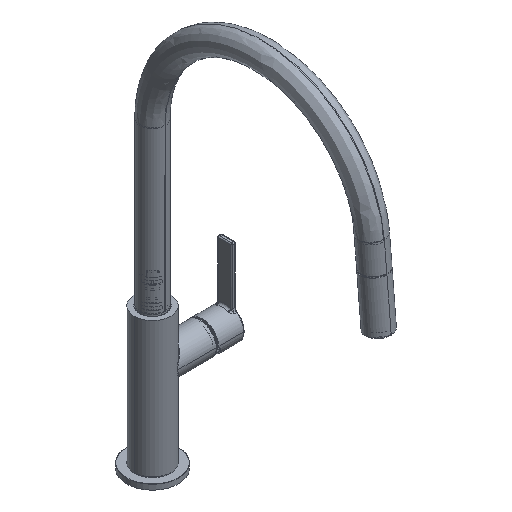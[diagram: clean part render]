
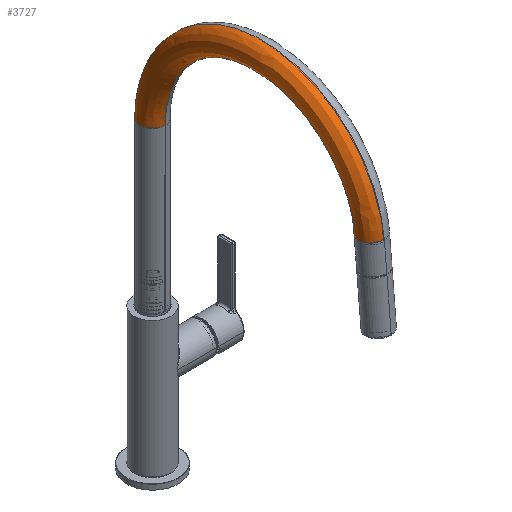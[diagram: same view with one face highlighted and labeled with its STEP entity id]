
A CAD part, isometric view. The second image highlights one B-rep face of the part: STEP entity #3727.
In plain terms, the highlighted free-form (B-spline) face has degree [2, 2] with [9, 9] control points.
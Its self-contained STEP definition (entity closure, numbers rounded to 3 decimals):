
#3727=ADVANCED_FACE('',(#6184),#46729,.T.);
#6184=FACE_OUTER_BOUND('',#8598,.T.);
#8598=EDGE_LOOP('',(#16851,#16852,#16853,#16854));
#16851=ORIENTED_EDGE('',*,*,#27127,.F.);
#16852=ORIENTED_EDGE('',*,*,#27139,.F.);
#16853=ORIENTED_EDGE('',*,*,#27142,.T.);
#16854=ORIENTED_EDGE('',*,*,#27141,.F.);
#27127=EDGE_CURVE('',#45520,#45519,#36916,.T.);
#27139=EDGE_CURVE('',#45523,#45520,#36920,.T.);
#27141=EDGE_CURVE('',#45519,#45524,#36922,.T.);
#27142=EDGE_CURVE('',#45523,#45524,#36923,.T.);
#36916=TRIMMED_CURVE($,#38269,(#91281),(#91282),.T.,.CARTESIAN.);
#36920=TRIMMED_CURVE($,#38273,(#91501),(#91502),.T.,.CARTESIAN.);
#36922=TRIMMED_CURVE($,#38275,(#91507),(#91508),.T.,.CARTESIAN.);
#36923=TRIMMED_CURVE($,#38276,(#91510),(#91511),.T.,.CARTESIAN.);
#38269=CIRCLE('',#52118,12.);
#38273=CIRCLE('',#52122,93.);
#38275=CIRCLE('',#52124,117.);
#38276=CIRCLE('',#52125,12.);
#45519=VERTEX_POINT('',#91256);
#45520=VERTEX_POINT('',#91257);
#45523=VERTEX_POINT('',#91260);
#45524=VERTEX_POINT('',#91261);
#46729=(
BOUNDED_SURFACE()
B_SPLINE_SURFACE(2,2,((#90890,#90891,#90892,#90893,#90894,#90895,#90896,
#90897,#90898),(#90899,#90900,#90901,#90902,#90903,#90904,#90905,#90906,
#90907),(#90908,#90909,#90910,#90911,#90912,#90913,#90914,#90915,#90916),
(#90917,#90918,#90919,#90920,#90921,#90922,#90923,#90924,#90925),(#90926,
#90927,#90928,#90929,#90930,#90931,#90932,#90933,#90934),(#90935,#90936,
#90937,#90938,#90939,#90940,#90941,#90942,#90943),(#90944,#90945,#90946,
#90947,#90948,#90949,#90950,#90951,#90952),(#90953,#90954,#90955,#90956,
#90957,#90958,#90959,#90960,#90961),(#90962,#90963,#90964,#90965,#90966,
#90967,#90968,#90969,#90970)),.UNSPECIFIED.,.T.,.F.,.F.)
B_SPLINE_SURFACE_WITH_KNOTS((3,2,2,2,3),(3,2,2,2,3),(0.,164.934,
329.867,494.801,659.734),(0.,18.85,
37.699,56.549,75.398),.UNSPECIFIED.)
GEOMETRIC_REPRESENTATION_ITEM()
RATIONAL_B_SPLINE_SURFACE(((1.,0.707,1.,0.707,1.,
0.707,1.,0.707,1.),(0.707,0.5,0.707,
0.5,0.707,0.5,0.707,0.5,0.707),(1.,
0.707,1.,0.707,1.,0.707,1.,0.707,
1.),(0.707,0.5,0.707,0.5,0.707,0.5,
0.707,0.5,0.707),(1.,0.707,1.,0.707,
1.,0.707,1.,0.707,1.),(0.707,0.5,0.707,
0.5,0.707,0.5,0.707,0.5,0.707),(1.,
0.707,1.,0.707,1.,0.707,1.,0.707,
1.),(0.707,0.5,0.707,0.5,0.707,0.5,
0.707,0.5,0.707),(1.,0.707,1.,0.707,
1.,0.707,1.,0.707,1.)))
REPRESENTATION_ITEM('')
SURFACE()
);
#52118=AXIS2_PLACEMENT_3D($,#91280,#56052,#56053);
#52122=AXIS2_PLACEMENT_3D($,#91500,#56060,#56061);
#52124=AXIS2_PLACEMENT_3D($,#91506,#56064,#56065);
#52125=AXIS2_PLACEMENT_3D($,#91509,#56066,#56067);
#56052=DIRECTION('',(0.,-1.,0.));
#56053=DIRECTION('',(1.,0.,0.));
#56060=DIRECTION('',(0.,0.,1.));
#56061=DIRECTION('',(0.996,0.087,0.));
#56064=DIRECTION('',(0.,0.,-1.));
#56065=DIRECTION('',(-1.,0.,0.));
#56066=DIRECTION('',(-0.087,0.996,0.));
#56067=DIRECTION('',(-0.996,-0.087,0.));
#90890=CARTESIAN_POINT('',(222.,154.,0.));
#90891=CARTESIAN_POINT('',(222.,154.,-12.));
#90892=CARTESIAN_POINT('',(210.,154.,-12.));
#90893=CARTESIAN_POINT('',(198.,154.,-12.));
#90894=CARTESIAN_POINT('',(198.,154.,0.));
#90895=CARTESIAN_POINT('',(198.,154.,12.));
#90896=CARTESIAN_POINT('',(210.,154.,12.));
#90897=CARTESIAN_POINT('',(222.,154.,12.));
#90898=CARTESIAN_POINT('',(222.,154.,0.));
#90899=CARTESIAN_POINT('',(222.,37.,0.));
#90900=CARTESIAN_POINT('',(222.,37.,-12.));
#90901=CARTESIAN_POINT('',(210.,49.,-12.));
#90902=CARTESIAN_POINT('',(198.,61.,-12.));
#90903=CARTESIAN_POINT('',(198.,61.,0.));
#90904=CARTESIAN_POINT('',(198.,61.,12.));
#90905=CARTESIAN_POINT('',(210.,49.,12.));
#90906=CARTESIAN_POINT('',(222.,37.,12.));
#90907=CARTESIAN_POINT('',(222.,37.,0.));
#90908=CARTESIAN_POINT('',(105.,37.,0.));
#90909=CARTESIAN_POINT('',(105.,37.,-12.));
#90910=CARTESIAN_POINT('',(105.,49.,-12.));
#90911=CARTESIAN_POINT('',(105.,61.,-12.));
#90912=CARTESIAN_POINT('',(105.,61.,0.));
#90913=CARTESIAN_POINT('',(105.,61.,12.));
#90914=CARTESIAN_POINT('',(105.,49.,12.));
#90915=CARTESIAN_POINT('',(105.,37.,12.));
#90916=CARTESIAN_POINT('',(105.,37.,0.));
#90917=CARTESIAN_POINT('',(-12.,37.,0.));
#90918=CARTESIAN_POINT('',(-12.,37.,-12.));
#90919=CARTESIAN_POINT('',(0.,49.,-12.));
#90920=CARTESIAN_POINT('',(12.,61.,-12.));
#90921=CARTESIAN_POINT('',(12.,61.,0.));
#90922=CARTESIAN_POINT('',(12.,61.,12.));
#90923=CARTESIAN_POINT('',(0.,49.,12.));
#90924=CARTESIAN_POINT('',(-12.,37.,12.));
#90925=CARTESIAN_POINT('',(-12.,37.,0.));
#90926=CARTESIAN_POINT('',(-12.,154.,0.));
#90927=CARTESIAN_POINT('',(-12.,154.,-12.));
#90928=CARTESIAN_POINT('',(0.,154.,-12.));
#90929=CARTESIAN_POINT('',(12.,154.,-12.));
#90930=CARTESIAN_POINT('',(12.,154.,0.));
#90931=CARTESIAN_POINT('',(12.,154.,12.));
#90932=CARTESIAN_POINT('',(0.,154.,12.));
#90933=CARTESIAN_POINT('',(-12.,154.,12.));
#90934=CARTESIAN_POINT('',(-12.,154.,0.));
#90935=CARTESIAN_POINT('',(-12.,271.,0.));
#90936=CARTESIAN_POINT('',(-12.,271.,-12.));
#90937=CARTESIAN_POINT('',(0.,259.,-12.));
#90938=CARTESIAN_POINT('',(12.,247.,-12.));
#90939=CARTESIAN_POINT('',(12.,247.,0.));
#90940=CARTESIAN_POINT('',(12.,247.,12.));
#90941=CARTESIAN_POINT('',(0.,259.,12.));
#90942=CARTESIAN_POINT('',(-12.,271.,12.));
#90943=CARTESIAN_POINT('',(-12.,271.,0.));
#90944=CARTESIAN_POINT('',(105.,271.,0.));
#90945=CARTESIAN_POINT('',(105.,271.,-12.));
#90946=CARTESIAN_POINT('',(105.,259.,-12.));
#90947=CARTESIAN_POINT('',(105.,247.,-12.));
#90948=CARTESIAN_POINT('',(105.,247.,0.));
#90949=CARTESIAN_POINT('',(105.,247.,12.));
#90950=CARTESIAN_POINT('',(105.,259.,12.));
#90951=CARTESIAN_POINT('',(105.,271.,12.));
#90952=CARTESIAN_POINT('',(105.,271.,0.));
#90953=CARTESIAN_POINT('',(222.,271.,0.));
#90954=CARTESIAN_POINT('',(222.,271.,-12.));
#90955=CARTESIAN_POINT('',(210.,259.,-12.));
#90956=CARTESIAN_POINT('',(198.,247.,-12.));
#90957=CARTESIAN_POINT('',(198.,247.,0.));
#90958=CARTESIAN_POINT('',(198.,247.,12.));
#90959=CARTESIAN_POINT('',(210.,259.,12.));
#90960=CARTESIAN_POINT('',(222.,271.,12.));
#90961=CARTESIAN_POINT('',(222.,271.,0.));
#90962=CARTESIAN_POINT('',(222.,154.,0.));
#90963=CARTESIAN_POINT('',(222.,154.,-12.));
#90964=CARTESIAN_POINT('',(210.,154.,-12.));
#90965=CARTESIAN_POINT('',(198.,154.,-12.));
#90966=CARTESIAN_POINT('',(198.,154.,0.));
#90967=CARTESIAN_POINT('',(198.,154.,12.));
#90968=CARTESIAN_POINT('',(210.,154.,12.));
#90969=CARTESIAN_POINT('',(222.,154.,12.));
#90970=CARTESIAN_POINT('',(222.,154.,0.));
#91256=CARTESIAN_POINT('',(-12.,154.,0.));
#91257=CARTESIAN_POINT('',(12.,154.,0.));
#91260=CARTESIAN_POINT('',(197.646,162.105,0.));
#91261=CARTESIAN_POINT('',(221.555,164.197,0.));
#91280=CARTESIAN_POINT('',(0.,154.,0.));
#91281=CARTESIAN_POINT('',(12.,154.,0.));
#91282=CARTESIAN_POINT('',(-12.,154.,0.));
#91500=CARTESIAN_POINT('',(105.,154.,0.));
#91501=CARTESIAN_POINT('',(197.646,162.105,0.));
#91502=CARTESIAN_POINT('',(12.,154.,0.));
#91506=CARTESIAN_POINT('',(105.,154.,0.));
#91507=CARTESIAN_POINT('',(-12.,154.,0.));
#91508=CARTESIAN_POINT('',(221.555,164.197,0.));
#91509=CARTESIAN_POINT('',(209.6,163.151,0.));
#91510=CARTESIAN_POINT('',(197.646,162.105,0.));
#91511=CARTESIAN_POINT('',(221.555,164.197,0.));
